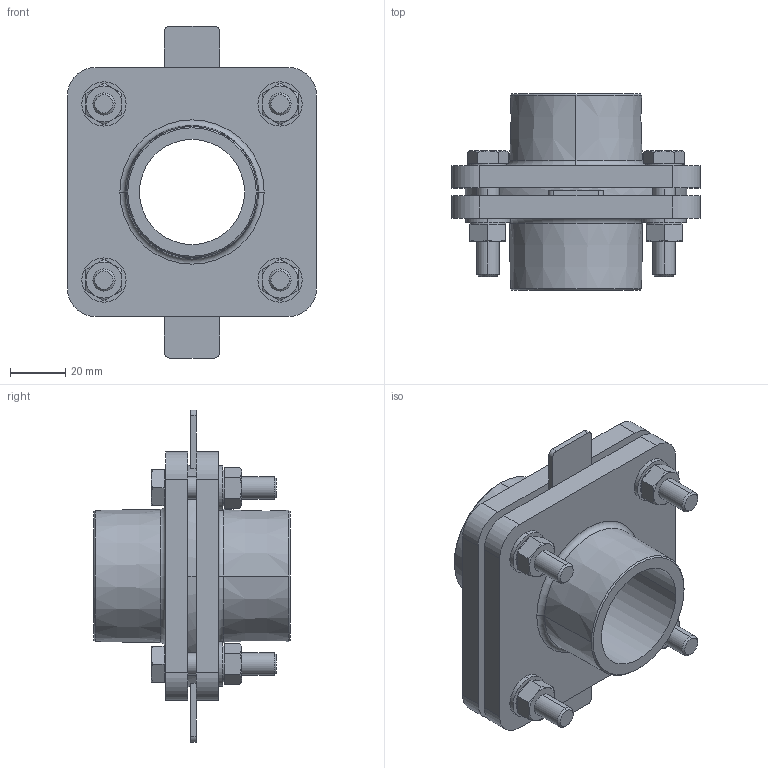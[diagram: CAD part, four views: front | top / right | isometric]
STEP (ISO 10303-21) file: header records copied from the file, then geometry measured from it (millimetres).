
FILE_DESCRIPTION (( 'STEP AP214' ), '1' );
FILE_NAME ('KP_F16-54MM.STEP', '2014-01-20T12:52:18', ( 'robinj' ), ( 'Microsoft' ), 'SwSTEP 2.0', 'SolidWorks 2014', '' );
FILE_SCHEMA (( 'AUTOMOTIVE_DESIGN' ));
Length unit declared in the file: millimetre
Products named in the file (1): KP_F16-54MM
Bounding box: 90 x 71 x 120 mm (x, y, z)
Volume: 165920.7 mm3; surface area: 52443.5 mm2
Topology: 1 solids, 1 shells, 299 faces, 664 edges, 396 vertices
Faces by surface type: plane 147, cylinder 76, cone 64, torus 12
Entity records: 9409 total; most frequent: CARTESIAN_POINT 1904, DIRECTION 1448, ORIENTED_EDGE 1328, EDGE_CURVE 664, AXIS2_PLACEMENT_3D 580, VERTEX_POINT 396, EDGE_LOOP 338, FACE_OUTER_BOUND 299
